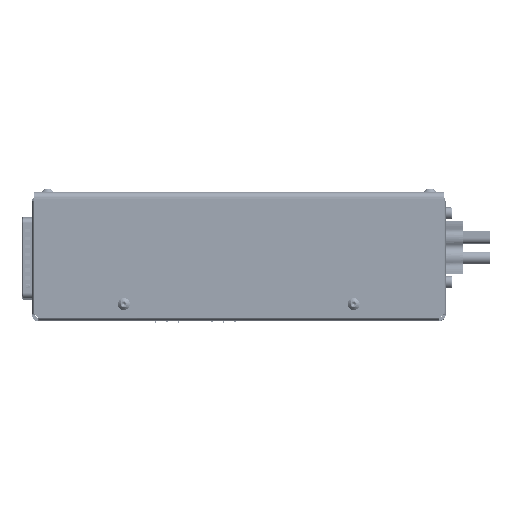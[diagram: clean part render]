
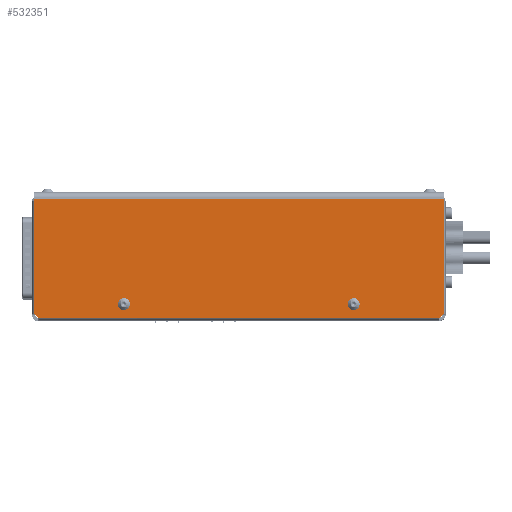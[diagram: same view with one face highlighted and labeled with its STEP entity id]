
A CAD part, top view. The second image highlights one B-rep face of the part: STEP entity #532351.
In plain terms, the highlighted planar face has unit normal (0, 0, 1) as drawn and (1, 0, 0) by its records, which use the part's own axes.
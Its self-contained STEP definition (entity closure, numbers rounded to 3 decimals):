
#12196 = VERTEX_POINT ( 'NONE', #375314 ) ;
#12718 = CARTESIAN_POINT ( 'NONE',  ( 53.5, -54., -55. ) ) ;
#16163 = DIRECTION ( 'NONE',  ( 0., -1., 0. ) ) ;
#18882 = CARTESIAN_POINT ( 'NONE',  ( 53.5, -58., -98. ) ) ;
#22096 = LINE ( 'NONE', #565623, #211105 ) ;
#32498 = CARTESIAN_POINT ( 'NONE',  ( 53.5, -53., 55. ) ) ;
#45477 = CIRCLE ( 'NONE', #372000, 1.75 ) ;
#49408 = LINE ( 'NONE', #402550, #471561 ) ;
#63604 = DIRECTION ( 'NONE',  ( 0., 1., 0. ) ) ;
#66321 = VECTOR ( 'NONE', #396888, 1000. ) ;
#66875 = DIRECTION ( 'NONE',  ( -1., 0., 0. ) ) ;
#74557 = ORIENTED_EDGE ( 'NONE', *, *, #623724, .T. ) ;
#79686 = VERTEX_POINT ( 'NONE', #254510 ) ;
#91073 = DIRECTION ( 'NONE',  ( 0., -0.707, -0.707 ) ) ;
#95601 = VERTEX_POINT ( 'NONE', #406989 ) ;
#98097 = CIRCLE ( 'NONE', #135497, 1.75 ) ;
#109267 = CARTESIAN_POINT ( 'NONE',  ( 53.5, -54., 53.25 ) ) ;
#117465 = PLANE ( 'NONE',  #319455 ) ;
#128109 = DIRECTION ( 'NONE',  ( 0., 0., -1. ) ) ;
#131872 = DIRECTION ( 'NONE',  ( 0., 1., 0. ) ) ;
#135497 = AXIS2_PLACEMENT_3D ( 'NONE', #654211, #372650, #213648 ) ;
#139131 = LINE ( 'NONE', #238892, #337153 ) ;
#143782 = VECTOR ( 'NONE', #525876, 1000. ) ;
#145264 = CARTESIAN_POINT ( 'NONE',  ( 53.5, -54., -56.75 ) ) ;
#168966 = VERTEX_POINT ( 'NONE', #459867 ) ;
#176979 = VECTOR ( 'NONE', #556828, 1000. ) ;
#195916 = DIRECTION ( 'NONE',  ( 0., -1., 0. ) ) ;
#196794 = CARTESIAN_POINT ( 'NONE',  ( 53.5, -53., -55. ) ) ;
#198121 = EDGE_CURVE ( 'NONE', #532263, #548394, #139131, .T. ) ;
#198439 = CARTESIAN_POINT ( 'NONE',  ( 53.5, -54., 56.75 ) ) ;
#211105 = VECTOR ( 'NONE', #293266, 1000. ) ;
#213648 = DIRECTION ( 'NONE',  ( 0., -1., 0. ) ) ;
#227506 = EDGE_CURVE ( 'NONE', #283022, #353693, #679853, .T. ) ;
#229877 = LINE ( 'NONE', #18882, #66321 ) ;
#236995 = EDGE_CURVE ( 'NONE', #168966, #548394, #653327, .T. ) ;
#237578 = CIRCLE ( 'NONE', #622997, 1.75 ) ;
#238224 = LINE ( 'NONE', #145264, #143782 ) ;
#238892 = CARTESIAN_POINT ( 'NONE',  ( 53.5, -3., 98. ) ) ;
#242357 = CARTESIAN_POINT ( 'NONE',  ( 53.5, -54., -53.25 ) ) ;
#252174 = DIRECTION ( 'NONE',  ( -1., 0., 0. ) ) ;
#253675 = VECTOR ( 'NONE', #293023, 1000. ) ;
#254510 = CARTESIAN_POINT ( 'NONE',  ( 53.5, -55.75, -55. ) ) ;
#262199 = CARTESIAN_POINT ( 'NONE',  ( 53.5, -3., 98. ) ) ;
#270135 = VERTEX_POINT ( 'NONE', #109267 ) ;
#281091 = DIRECTION ( 'NONE',  ( -1., 0., 0. ) ) ;
#283022 = VERTEX_POINT ( 'NONE', #198439 ) ;
#284050 = EDGE_CURVE ( 'NONE', #403482, #270135, #642038, .T. ) ;
#284078 = AXIS2_PLACEMENT_3D ( 'NONE', #671001, #66875, #16163 ) ;
#290150 = VERTEX_POINT ( 'NONE', #436378 ) ;
#291108 = ORIENTED_EDGE ( 'NONE', *, *, #227506, .T. ) ;
#293023 = DIRECTION ( 'NONE',  ( 0., 1., 0. ) ) ;
#293266 = DIRECTION ( 'NONE',  ( 0., 1., 0. ) ) ;
#306142 = EDGE_CURVE ( 'NONE', #356474, #290150, #348234, .T. ) ;
#309259 = DIRECTION ( 'NONE',  ( -1., 0., 0. ) ) ;
#310227 = ORIENTED_EDGE ( 'NONE', *, *, #368853, .T. ) ;
#311597 = DIRECTION ( 'NONE',  ( 0., -1., 0. ) ) ;
#318429 = FACE_OUTER_BOUND ( 'NONE', #578288, .T. ) ;
#319455 = AXIS2_PLACEMENT_3D ( 'NONE', #663921, #281091, #384792 ) ;
#335819 = ORIENTED_EDGE ( 'NONE', *, *, #198121, .F. ) ;
#337153 = VECTOR ( 'NONE', #624141, 1000. ) ;
#339580 = EDGE_CURVE ( 'NONE', #352968, #528222, #238224, .T. ) ;
#342011 = EDGE_CURVE ( 'NONE', #95601, #168966, #229877, .T. ) ;
#343384 = ORIENTED_EDGE ( 'NONE', *, *, #649591, .T. ) ;
#343801 = EDGE_CURVE ( 'NONE', #514802, #95601, #49408, .T. ) ;
#348234 = LINE ( 'NONE', #242357, #253675 ) ;
#352968 = VERTEX_POINT ( 'NONE', #485896 ) ;
#353693 = VERTEX_POINT ( 'NONE', #518631 ) ;
#356474 = VERTEX_POINT ( 'NONE', #674415 ) ;
#359766 = EDGE_CURVE ( 'NONE', #79686, #356474, #237578, .T. ) ;
#360770 = VECTOR ( 'NONE', #63604, 1000. ) ;
#368853 = EDGE_CURVE ( 'NONE', #528222, #79686, #45477, .T. ) ;
#372000 = AXIS2_PLACEMENT_3D ( 'NONE', #12718, #455718, #409771 ) ;
#372442 = EDGE_CURVE ( 'NONE', #12196, #514802, #708897, .T. ) ;
#372650 = DIRECTION ( 'NONE',  ( -1., 0., 0. ) ) ;
#375314 = CARTESIAN_POINT ( 'NONE',  ( 53.5, -58., 98. ) ) ;
#376389 = CIRCLE ( 'NONE', #701445, 1.75 ) ;
#378726 = ORIENTED_EDGE ( 'NONE', *, *, #372442, .T. ) ;
#380711 = ORIENTED_EDGE ( 'NONE', *, *, #683012, .T. ) ;
#384792 = DIRECTION ( 'NONE',  ( 0., -1., 0. ) ) ;
#396888 = DIRECTION ( 'NONE',  ( 0., 0.707, -0.707 ) ) ;
#397040 = CIRCLE ( 'NONE', #284078, 1.75 ) ;
#401864 = AXIS2_PLACEMENT_3D ( 'NONE', #196794, #252174, #423125 ) ;
#402550 = CARTESIAN_POINT ( 'NONE',  ( 53.5, -60., 98. ) ) ;
#403482 = VERTEX_POINT ( 'NONE', #511524 ) ;
#406989 = CARTESIAN_POINT ( 'NONE',  ( 53.5, -60., -96. ) ) ;
#409367 = ORIENTED_EDGE ( 'NONE', *, *, #496837, .F. ) ;
#409771 = DIRECTION ( 'NONE',  ( 0., -1., 0. ) ) ;
#423125 = DIRECTION ( 'NONE',  ( 0., -1., 0. ) ) ;
#436378 = CARTESIAN_POINT ( 'NONE',  ( 53.5, -53., -53.25 ) ) ;
#439168 = CARTESIAN_POINT ( 'NONE',  ( 53.5, -54., 56.75 ) ) ;
#449382 = VERTEX_POINT ( 'NONE', #544561 ) ;
#455718 = DIRECTION ( 'NONE',  ( -1., 0., 0. ) ) ;
#459036 = CARTESIAN_POINT ( 'NONE',  ( 53.5, -3., -98. ) ) ;
#459384 = CARTESIAN_POINT ( 'NONE',  ( 53.5, 0., -98. ) ) ;
#459867 = CARTESIAN_POINT ( 'NONE',  ( 53.5, -58., -98. ) ) ;
#471561 = VECTOR ( 'NONE', #128109, 1000. ) ;
#481739 = ORIENTED_EDGE ( 'NONE', *, *, #342011, .T. ) ;
#485103 = ORIENTED_EDGE ( 'NONE', *, *, #339580, .T. ) ;
#485896 = CARTESIAN_POINT ( 'NONE',  ( 53.5, -53., -56.75 ) ) ;
#496837 = EDGE_CURVE ( 'NONE', #12196, #532263, #22096, .T. ) ;
#500421 = EDGE_LOOP ( 'NONE', ( #508854, #343384, #74557, #291108, #554825 ) ) ;
#508854 = ORIENTED_EDGE ( 'NONE', *, *, #284050, .T. ) ;
#511524 = CARTESIAN_POINT ( 'NONE',  ( 53.5, -53., 53.25 ) ) ;
#514802 = VERTEX_POINT ( 'NONE', #576150 ) ;
#518631 = CARTESIAN_POINT ( 'NONE',  ( 53.5, -53., 56.75 ) ) ;
#525876 = DIRECTION ( 'NONE',  ( 0., -1., 0. ) ) ;
#528222 = VERTEX_POINT ( 'NONE', #536442 ) ;
#532263 = VERTEX_POINT ( 'NONE', #262199 ) ;
#532351 = ADVANCED_FACE ( 'NONE', ( #568018, #550705, #318429 ), #117465, .F. ) ;
#532669 = VECTOR ( 'NONE', #131872, 1000. ) ;
#536442 = CARTESIAN_POINT ( 'NONE',  ( 53.5, -54., -56.75 ) ) ;
#537109 = VECTOR ( 'NONE', #91073, 1000. ) ;
#544561 = CARTESIAN_POINT ( 'NONE',  ( 53.5, -55.75, 55. ) ) ;
#548394 = VERTEX_POINT ( 'NONE', #459036 ) ;
#550705 = FACE_BOUND ( 'NONE', #551941, .T. ) ;
#551941 = EDGE_LOOP ( 'NONE', ( #485103, #310227, #672768, #620003, #380711 ) ) ;
#554725 = ORIENTED_EDGE ( 'NONE', *, *, #236995, .T. ) ;
#554825 = ORIENTED_EDGE ( 'NONE', *, *, #662374, .T. ) ;
#556828 = DIRECTION ( 'NONE',  ( 0., -1., 0. ) ) ;
#565623 = CARTESIAN_POINT ( 'NONE',  ( 53.5, 0., 98. ) ) ;
#568018 = FACE_BOUND ( 'NONE', #500421, .T. ) ;
#576150 = CARTESIAN_POINT ( 'NONE',  ( 53.5, -60., 96. ) ) ;
#578288 = EDGE_LOOP ( 'NONE', ( #662593, #481739, #554725, #335819, #409367, #378726 ) ) ;
#616677 = CARTESIAN_POINT ( 'NONE',  ( 53.5, -54., 53.25 ) ) ;
#620003 = ORIENTED_EDGE ( 'NONE', *, *, #306142, .T. ) ;
#622997 = AXIS2_PLACEMENT_3D ( 'NONE', #639125, #309259, #311597 ) ;
#623724 = EDGE_CURVE ( 'NONE', #449382, #283022, #98097, .T. ) ;
#624141 = DIRECTION ( 'NONE',  ( 0., 0., -1. ) ) ;
#638935 = DIRECTION ( 'NONE',  ( -1., 0., 0. ) ) ;
#639125 = CARTESIAN_POINT ( 'NONE',  ( 53.5, -54., -55. ) ) ;
#642038 = LINE ( 'NONE', #616677, #176979 ) ;
#649591 = EDGE_CURVE ( 'NONE', #270135, #449382, #397040, .T. ) ;
#653327 = LINE ( 'NONE', #459384, #532669 ) ;
#654211 = CARTESIAN_POINT ( 'NONE',  ( 53.5, -54., 55. ) ) ;
#662374 = EDGE_CURVE ( 'NONE', #353693, #403482, #376389, .T. ) ;
#662593 = ORIENTED_EDGE ( 'NONE', *, *, #343801, .T. ) ;
#663921 = CARTESIAN_POINT ( 'NONE',  ( 53.5, 0., 98. ) ) ;
#664746 = CIRCLE ( 'NONE', #401864, 1.75 ) ;
#671001 = CARTESIAN_POINT ( 'NONE',  ( 53.5, -54., 55. ) ) ;
#672768 = ORIENTED_EDGE ( 'NONE', *, *, #359766, .T. ) ;
#674415 = CARTESIAN_POINT ( 'NONE',  ( 53.5, -54., -53.25 ) ) ;
#679853 = LINE ( 'NONE', #439168, #360770 ) ;
#683012 = EDGE_CURVE ( 'NONE', #290150, #352968, #664746, .T. ) ;
#695178 = CARTESIAN_POINT ( 'NONE',  ( 53.5, -60., 96. ) ) ;
#701445 = AXIS2_PLACEMENT_3D ( 'NONE', #32498, #638935, #195916 ) ;
#708897 = LINE ( 'NONE', #695178, #537109 ) ;
